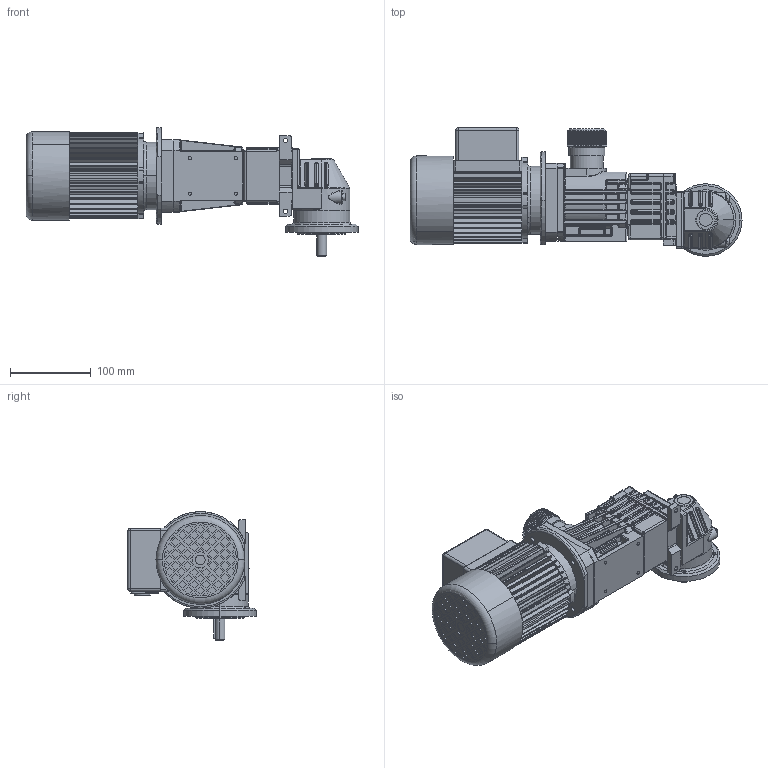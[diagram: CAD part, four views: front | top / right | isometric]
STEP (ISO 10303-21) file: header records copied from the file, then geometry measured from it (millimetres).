
FILE_DESCRIPTION(('CoCreate Modeling STEP Export'),'2;1');
FILE_NAME('K23W2_K27W2_ig_alle_BF_B14_W2_Wellenanordnung_B_Standardstelleinrichtung_180W_Motor.stp','2014-12-03T15:53:10',(''),(''),'CoCreate Modeling STEP processor for AP214 (Solid Model)','CoCreate Modeling 16.00C 25-Feb-2009 (C) Parametric Technology GmbH','');
FILE_SCHEMA(('AUTOMOTIVE_DESIGN { 1 0 10303 214 1 1 1 1 }'));
Products named in the file (3): K23W2_K27W2_ig_alle_BF_B14_W2_Wellenanordnung_B_Standardstelleinrichtun
g; 180W_Motor.01; K23W2_K27W2_ig_alle_BF_B14_W2_Wellenanordnung_B_Standardstelleinrichtun
g_180W_Motor
Assembly tree (2 placements, depth 2):
  K23W2_K27W2_ig_alle_BF_B14_W2_Wellenanordnung_B_Standardstelleinrichtun
g_180W_Motor
    180W_Motor.01
    K23W2_K27W2_ig_alle_BF_B14_W2_Wellenanordnung_B_Standardstelleinrichtun
g
Bounding box: 412.11 x 159.43 x 160 mm (x, y, z)
Volume: 3043031.6 mm3; surface area: 284486.7 mm2
Topology: 2 solids, 7 shells, 2805 faces, 7024 edges, 4243 vertices
Faces by surface type: plane 1019, cylinder 884, bspline 636, torus 148, sphere 65, cone 28, extrusion 25
Entity records: 169665 total; most frequent: CARTESIAN_POINT 97402, ORIENTED_EDGE 13830, DIRECTION 8807, EDGE_CURVE 6915, VERTEX_POINT 4243, AXIS2_PLACEMENT_3D 2962, EDGE_LOOP 2948, VECTOR 2883
